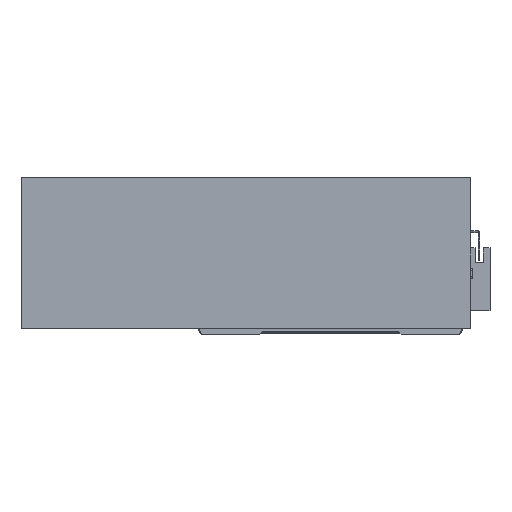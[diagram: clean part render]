
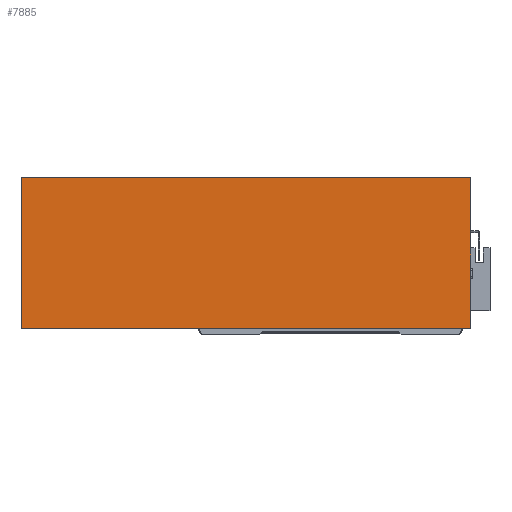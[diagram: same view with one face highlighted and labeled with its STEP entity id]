
A CAD part, top view. The second image highlights one B-rep face of the part: STEP entity #7885.
In plain terms, the highlighted planar face has unit normal (0, 0, 1).
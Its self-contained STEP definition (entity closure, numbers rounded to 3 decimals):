
#103 = CARTESIAN_POINT ( 'NONE',  ( 0., 0., 50. ) ) ;
#162 = CARTESIAN_POINT ( 'NONE',  ( 277., 93., 50. ) ) ;
#1652 = LINE ( 'NONE', #103, #7212 ) ;
#2179 = CARTESIAN_POINT ( 'NONE',  ( 0., 0., 50. ) ) ;
#2246 = ORIENTED_EDGE ( 'NONE', *, *, #18077, .T. ) ;
#2701 = DIRECTION ( 'NONE',  ( 0., 0., -1. ) ) ;
#4286 = DIRECTION ( 'NONE',  ( 0., -1., 0. ) ) ;
#5145 = LINE ( 'NONE', #2179, #15528 ) ;
#5210 = EDGE_LOOP ( 'NONE', ( #22378, #22003, #2246, #6261 ) ) ;
#6261 = ORIENTED_EDGE ( 'NONE', *, *, #15247, .T. ) ;
#6627 = CARTESIAN_POINT ( 'NONE',  ( 0., 93., 50. ) ) ;
#7105 = CARTESIAN_POINT ( 'NONE',  ( 277., 0., 50. ) ) ;
#7212 = VECTOR ( 'NONE', #12552, 1000. ) ;
#7842 = VERTEX_POINT ( 'NONE', #21236 ) ;
#7885 = ADVANCED_FACE ( 'NONE', ( #22446 ), #13060, .F. ) ;
#8369 = CARTESIAN_POINT ( 'NONE',  ( 0., 0., 50. ) ) ;
#8732 = DIRECTION ( 'NONE',  ( -1., 0., 0. ) ) ;
#9761 = EDGE_CURVE ( 'NONE', #20944, #25487, #5145, .T. ) ;
#12535 = VECTOR ( 'NONE', #8732, 1000. ) ;
#12552 = DIRECTION ( 'NONE',  ( 1., 0., 0. ) ) ;
#13060 = PLANE ( 'NONE',  #14227 ) ;
#13352 = DIRECTION ( 'NONE',  ( 0., 1., 0. ) ) ;
#14227 = AXIS2_PLACEMENT_3D ( 'NONE', #19245, #2701, #17245 ) ;
#15247 = EDGE_CURVE ( 'NONE', #23653, #20944, #18716, .T. ) ;
#15528 = VECTOR ( 'NONE', #4286, 1000. ) ;
#17245 = DIRECTION ( 'NONE',  ( -1., 0., 0. ) ) ;
#17876 = EDGE_CURVE ( 'NONE', #25487, #7842, #1652, .T. ) ;
#17907 = VECTOR ( 'NONE', #13352, 1000. ) ;
#18077 = EDGE_CURVE ( 'NONE', #7842, #23653, #23422, .T. ) ;
#18716 = LINE ( 'NONE', #6627, #12535 ) ;
#19245 = CARTESIAN_POINT ( 'NONE',  ( 0., 0., 50. ) ) ;
#20479 = CARTESIAN_POINT ( 'NONE',  ( 0., 93., 50. ) ) ;
#20944 = VERTEX_POINT ( 'NONE', #20479 ) ;
#21236 = CARTESIAN_POINT ( 'NONE',  ( 277., 0., 50. ) ) ;
#22003 = ORIENTED_EDGE ( 'NONE', *, *, #17876, .T. ) ;
#22378 = ORIENTED_EDGE ( 'NONE', *, *, #9761, .T. ) ;
#22446 = FACE_OUTER_BOUND ( 'NONE', #5210, .T. ) ;
#23422 = LINE ( 'NONE', #7105, #17907 ) ;
#23653 = VERTEX_POINT ( 'NONE', #162 ) ;
#25487 = VERTEX_POINT ( 'NONE', #8369 ) ;
